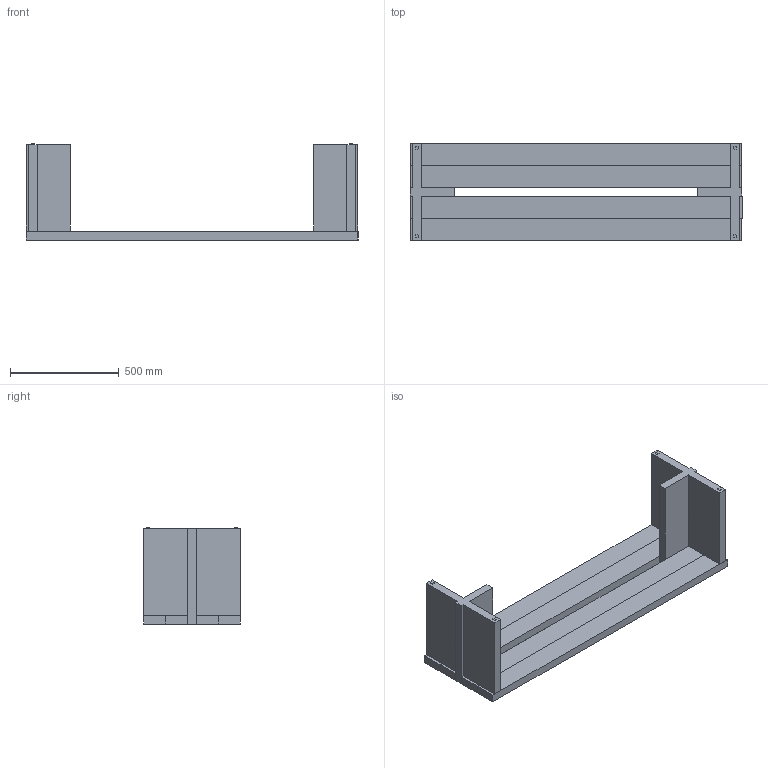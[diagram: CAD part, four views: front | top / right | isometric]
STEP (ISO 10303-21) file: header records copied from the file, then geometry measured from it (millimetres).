
FILE_DESCRIPTION (( 'STEP AP214' ), '1' );
FILE_NAME ('Grange Bench 60in PnG (Solid Body).STEP', '2021-07-20T20:14:39', ( '' ), ( '' ), 'SwSTEP 2.0', 'SolidWorks 2021', '' );
FILE_SCHEMA (( 'AUTOMOTIVE_DESIGN' ));
Length unit declared in the file: millimetre
Products named in the file (1): Grange Bench 60in PnG (Solid Body)
Bounding box: 1524 x 444.5 x 441.32 mm (x, y, z)
Volume: 42772285.4 mm3; surface area: 2902252.3 mm2
Topology: 10 solids, 10 shells, 76 faces, 168 edges, 112 vertices
Faces by surface type: plane 76
Entity records: 3003 total; most frequent: CARTESIAN_POINT 357, ORIENTED_EDGE 336, DIRECTION 322, LINE 168, VECTOR 168, EDGE_CURVE 168, VERTEX_POINT 112, UNCERTAINTY_MEASURE_WITH_UNIT 88
